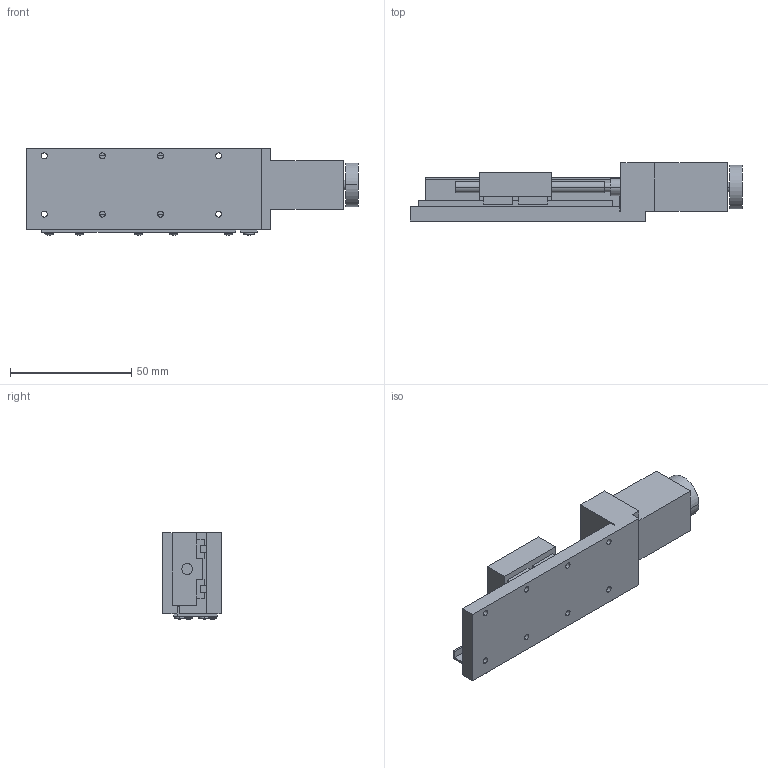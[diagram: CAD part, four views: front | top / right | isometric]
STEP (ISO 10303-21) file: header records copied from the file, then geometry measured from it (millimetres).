
FILE_DESCRIPTION (( 'STEP AP203' ), '1' );
FILE_NAME ('ALS-305-CM.STEP', '2008-04-10T09:49:31', ( '' ), ( '' ), 'SwSTEP 2.0', 'SolidWorks 2007', '' );
FILE_SCHEMA (( 'CONFIG_CONTROL_DESIGN' ));
Length unit declared in the file: millimetre
Products named in the file (3): ALS-305-CM; ALS-305-CM-2; ALS-305-CM-1
Assembly tree (2 placements, depth 2):
  ALS-305-CM
    ALS-305-CM-1
    ALS-305-CM-2
Bounding box: 137 x 24 x 35.8 mm (x, y, z)
Volume: 55046.1 mm3; surface area: 22653.1 mm2
Topology: 2 solids, 2 shells, 228 faces, 556 edges, 356 vertices
Faces by surface type: plane 110, cylinder 74, cone 22, torus 10, sphere 10, bspline 2
Entity records: 7361 total; most frequent: CARTESIAN_POINT 1535, DIRECTION 1206, ORIENTED_EDGE 1088, EDGE_CURVE 544, AXIS2_PLACEMENT_3D 435, VERTEX_POINT 356, LINE 336, VECTOR 336
